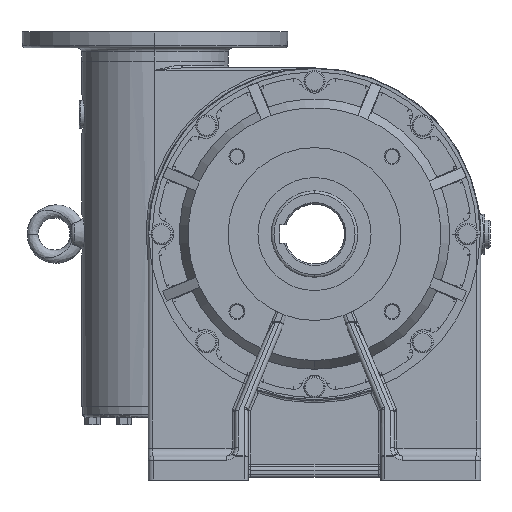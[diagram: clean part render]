
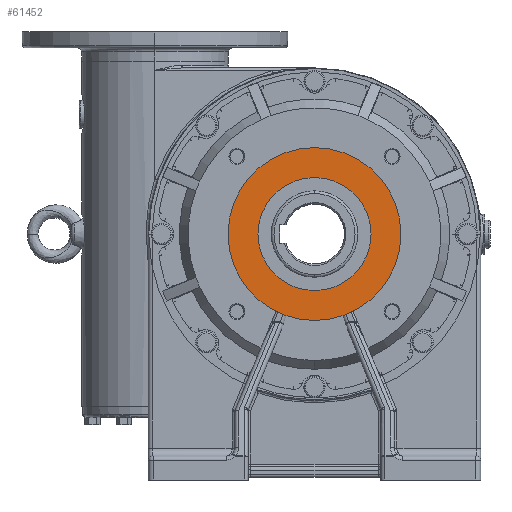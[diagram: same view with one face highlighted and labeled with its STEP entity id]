
A CAD part, left-side view. The second image highlights one B-rep face of the part: STEP entity #61452.
In plain terms, the highlighted planar face has unit normal (-1, 0, 0) as drawn and (0, 0, 1) by its records, which use the part's own axes.
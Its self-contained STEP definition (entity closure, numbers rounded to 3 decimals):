
#18481 = DIRECTION ( 'NONE',  ( 0., 0., 1. ) ) ;
#18521 = FACE_OUTER_BOUND ( 'NONE', #61453, .T. ) ;
#18522 = PLANE ( 'NONE',  #18525 ) ;
#18523 = CARTESIAN_POINT ( 'NONE',  ( 0., 16.327, 26. ) ) ;
#18524 = FACE_BOUND ( 'NONE', #61957, .T. ) ;
#18525 = AXIS2_PLACEMENT_3D ( 'NONE', #18523, #18481, #18528 ) ;
#18528 = DIRECTION ( 'NONE',  ( 1., 0., 0. ) ) ;
#19247 = DIRECTION ( 'NONE',  ( 1., 0., 0. ) ) ;
#19248 = DIRECTION ( 'NONE',  ( 0., 0., 1. ) ) ;
#19249 = CARTESIAN_POINT ( 'NONE',  ( 0., 0., 26. ) ) ;
#19251 = AXIS2_PLACEMENT_3D ( 'NONE', #19249, #19248, #19247 ) ;
#19252 = CIRCLE ( 'NONE', #19251, 42.5 ) ;
#36216 = CARTESIAN_POINT ( 'NONE',  ( 0., 0., 26. ) ) ;
#36217 = CARTESIAN_POINT ( 'NONE',  ( -42.5, 0., 26. ) ) ;
#36267 = CARTESIAN_POINT ( 'NONE',  ( 42.5, 0., 26. ) ) ;
#36268 = DIRECTION ( 'NONE',  ( 1., 0., 0. ) ) ;
#36269 = DIRECTION ( 'NONE',  ( 0., 0., 1. ) ) ;
#36270 = AXIS2_PLACEMENT_3D ( 'NONE', #36216, #36269, #36268 ) ;
#36271 = CIRCLE ( 'NONE', #36270, 42.5 ) ;
#60931 = VERTEX_POINT ( 'NONE', #36217 ) ;
#60935 = EDGE_CURVE ( 'NONE', #60931, #60936, #36271, .T. ) ;
#60936 = VERTEX_POINT ( 'NONE', #36267 ) ;
#61057 = VERTEX_POINT ( 'NONE', #65661 ) ;
#61061 = EDGE_CURVE ( 'NONE', #61062, #61057, #65640, .T. ) ;
#61062 = VERTEX_POINT ( 'NONE', #65632 ) ;
#61452 = ADVANCED_FACE ( 'NONE', ( #18521, #18524 ), #18522, .T. ) ;
#61453 = EDGE_LOOP ( 'NONE', ( #61455, #61457 ) ) ;
#61455 = ORIENTED_EDGE ( 'NONE', *, *, #61061, .T. ) ;
#61457 = ORIENTED_EDGE ( 'NONE', *, *, #61987, .T. ) ;
#61548 = EDGE_CURVE ( 'NONE', #60936, #60931, #19252, .T. ) ;
#61953 = ORIENTED_EDGE ( 'NONE', *, *, #61548, .F. ) ;
#61957 = EDGE_LOOP ( 'NONE', ( #61953, #62025 ) ) ;
#61987 = EDGE_CURVE ( 'NONE', #61057, #61062, #71735, .T. ) ;
#62025 = ORIENTED_EDGE ( 'NONE', *, *, #60935, .F. ) ;
#65632 = CARTESIAN_POINT ( 'NONE',  ( 65., 0., 26. ) ) ;
#65634 = DIRECTION ( 'NONE',  ( 1., 0., 0. ) ) ;
#65636 = DIRECTION ( 'NONE',  ( 0., 0., 1. ) ) ;
#65638 = AXIS2_PLACEMENT_3D ( 'NONE', #65653, #65636, #65634 ) ;
#65640 = CIRCLE ( 'NONE', #65638, 65. ) ;
#65653 = CARTESIAN_POINT ( 'NONE',  ( 0., 0., 26. ) ) ;
#65661 = CARTESIAN_POINT ( 'NONE',  ( -65., 0., 26. ) ) ;
#71731 = DIRECTION ( 'NONE',  ( 1., 0., 0. ) ) ;
#71732 = DIRECTION ( 'NONE',  ( 0., 0., 1. ) ) ;
#71733 = CARTESIAN_POINT ( 'NONE',  ( 0., 0., 26. ) ) ;
#71734 = AXIS2_PLACEMENT_3D ( 'NONE', #71733, #71732, #71731 ) ;
#71735 = CIRCLE ( 'NONE', #71734, 65. ) ;
